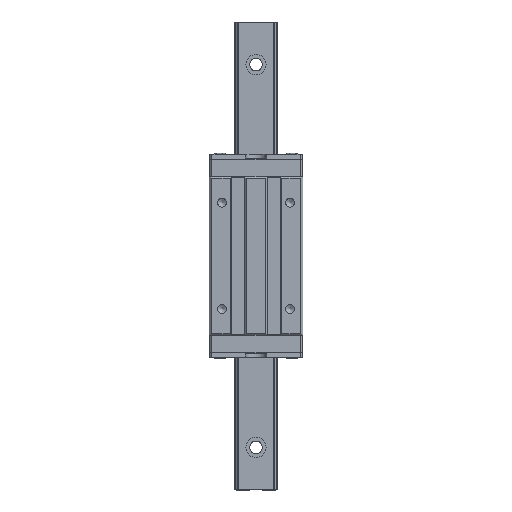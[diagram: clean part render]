
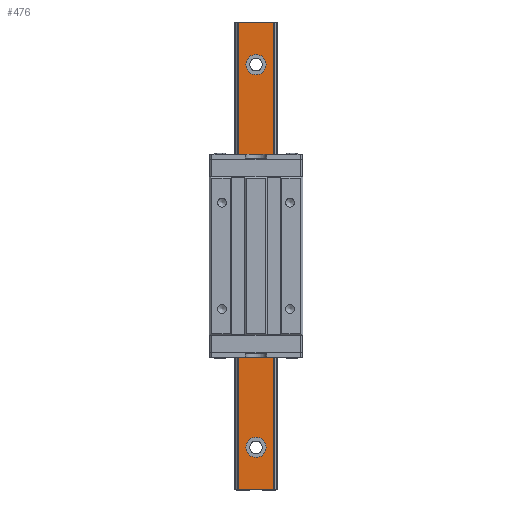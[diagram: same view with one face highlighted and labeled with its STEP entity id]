
A CAD part, top view. The second image highlights one B-rep face of the part: STEP entity #476.
In plain terms, the highlighted planar face has unit normal (0, 0, 1).
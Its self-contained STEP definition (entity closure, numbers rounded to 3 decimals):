
#476 = ADVANCED_FACE( '', ( #1080, #1081, #1082, #1083, #1084 ), #1085, .T. );
#1080 = FACE_BOUND( '', #1931, .T. );
#1081 = FACE_BOUND( '', #1932, .T. );
#1082 = FACE_BOUND( '', #1933, .T. );
#1083 = FACE_BOUND( '', #1934, .T. );
#1084 = FACE_OUTER_BOUND( '', #1935, .T. );
#1085 = PLANE( '', #1936 );
#1931 = EDGE_LOOP( '', ( #3002 ) );
#1932 = EDGE_LOOP( '', ( #3003 ) );
#1933 = EDGE_LOOP( '', ( #3004 ) );
#1934 = EDGE_LOOP( '', ( #3005 ) );
#1935 = EDGE_LOOP( '', ( #3006, #3007, #3008, #3009 ) );
#1936 = AXIS2_PLACEMENT_3D( '', #3010, #3011, #3012 );
#3002 = ORIENTED_EDGE( '', *, *, #5906, .T. );
#3003 = ORIENTED_EDGE( '', *, *, #5907, .T. );
#3004 = ORIENTED_EDGE( '', *, *, #5908, .T. );
#3005 = ORIENTED_EDGE( '', *, *, #5909, .T. );
#3006 = ORIENTED_EDGE( '', *, *, #5856, .F. );
#3007 = ORIENTED_EDGE( '', *, *, #5905, .F. );
#3008 = ORIENTED_EDGE( '', *, *, #5889, .T. );
#3009 = ORIENTED_EDGE( '', *, *, #5910, .T. );
#3010 = CARTESIAN_POINT( '', ( 8.25, -110., 16.5 ) );
#3011 = DIRECTION( '', ( 0., 0., 1. ) );
#3012 = DIRECTION( '', ( 1., 0., 0. ) );
#5856 = EDGE_CURVE( '', #6778, #6780, #6781, .T. );
#5889 = EDGE_CURVE( '', #6844, #6842, #6845, .T. );
#5905 = EDGE_CURVE( '', #6844, #6778, #6868, .T. );
#5906 = EDGE_CURVE( '', #6869, #6869, #6870, .T. );
#5907 = EDGE_CURVE( '', #6871, #6871, #6872, .T. );
#5908 = EDGE_CURVE( '', #6873, #6873, #6874, .T. );
#5909 = EDGE_CURVE( '', #6875, #6875, #6876, .T. );
#5910 = EDGE_CURVE( '', #6842, #6780, #6877, .T. );
#6778 = VERTEX_POINT( '', #8170 );
#6780 = VERTEX_POINT( '', #8173 );
#6781 = LINE( '', #8174, #8175 );
#6842 = VERTEX_POINT( '', #8259 );
#6844 = VERTEX_POINT( '', #8262 );
#6845 = LINE( '', #8263, #8264 );
#6868 = LINE( '', #8300, #8301 );
#6869 = VERTEX_POINT( '', #8302 );
#6870 = CIRCLE( '', #8303, 4.75 );
#6871 = VERTEX_POINT( '', #8304 );
#6872 = CIRCLE( '', #8305, 4.75 );
#6873 = VERTEX_POINT( '', #8306 );
#6874 = CIRCLE( '', #8307, 4.75 );
#6875 = VERTEX_POINT( '', #8308 );
#6876 = CIRCLE( '', #8309, 4.75 );
#6877 = LINE( '', #8310, #8311 );
#8170 = CARTESIAN_POINT( '', ( -8.25, 110., 16.5 ) );
#8173 = CARTESIAN_POINT( '', ( 8.25, 110., 16.5 ) );
#8174 = CARTESIAN_POINT( '', ( 8.25, 110., 16.5 ) );
#8175 = VECTOR( '', #10670, 1000. );
#8259 = CARTESIAN_POINT( '', ( 8.25, -110., 16.5 ) );
#8262 = CARTESIAN_POINT( '', ( -8.25, -110., 16.5 ) );
#8263 = CARTESIAN_POINT( '', ( 8.25, -110., 16.5 ) );
#8264 = VECTOR( '', #10719, 1000. );
#8300 = CARTESIAN_POINT( '', ( -8.25, -110., 16.5 ) );
#8301 = VECTOR( '', #10739, 1000. );
#8302 = CARTESIAN_POINT( '', ( 4.75, 90., 16.5 ) );
#8303 = AXIS2_PLACEMENT_3D( '', #10740, #10741, #10742 );
#8304 = CARTESIAN_POINT( '', ( 4.75, 30., 16.5 ) );
#8305 = AXIS2_PLACEMENT_3D( '', #10743, #10744, #10745 );
#8306 = CARTESIAN_POINT( '', ( 4.75, -30., 16.5 ) );
#8307 = AXIS2_PLACEMENT_3D( '', #10746, #10747, #10748 );
#8308 = CARTESIAN_POINT( '', ( 4.75, -90., 16.5 ) );
#8309 = AXIS2_PLACEMENT_3D( '', #10749, #10750, #10751 );
#8310 = CARTESIAN_POINT( '', ( 8.25, -110., 16.5 ) );
#8311 = VECTOR( '', #10752, 1000. );
#10670 = DIRECTION( '', ( 1., 0., 0. ) );
#10719 = DIRECTION( '', ( 1., 0., 0. ) );
#10739 = DIRECTION( '', ( 0., 1., 0. ) );
#10740 = CARTESIAN_POINT( '', ( 0., 90., 16.5 ) );
#10741 = DIRECTION( '', ( 0., 0., -1. ) );
#10742 = DIRECTION( '', ( 1., 0., 0. ) );
#10743 = CARTESIAN_POINT( '', ( 0., 30., 16.5 ) );
#10744 = DIRECTION( '', ( 0., 0., -1. ) );
#10745 = DIRECTION( '', ( 1., 0., 0. ) );
#10746 = CARTESIAN_POINT( '', ( 0., -30., 16.5 ) );
#10747 = DIRECTION( '', ( 0., 0., -1. ) );
#10748 = DIRECTION( '', ( 1., 0., 0. ) );
#10749 = CARTESIAN_POINT( '', ( 0., -90., 16.5 ) );
#10750 = DIRECTION( '', ( 0., 0., -1. ) );
#10751 = DIRECTION( '', ( 1., 0., 0. ) );
#10752 = DIRECTION( '', ( 0., 1., 0. ) );
